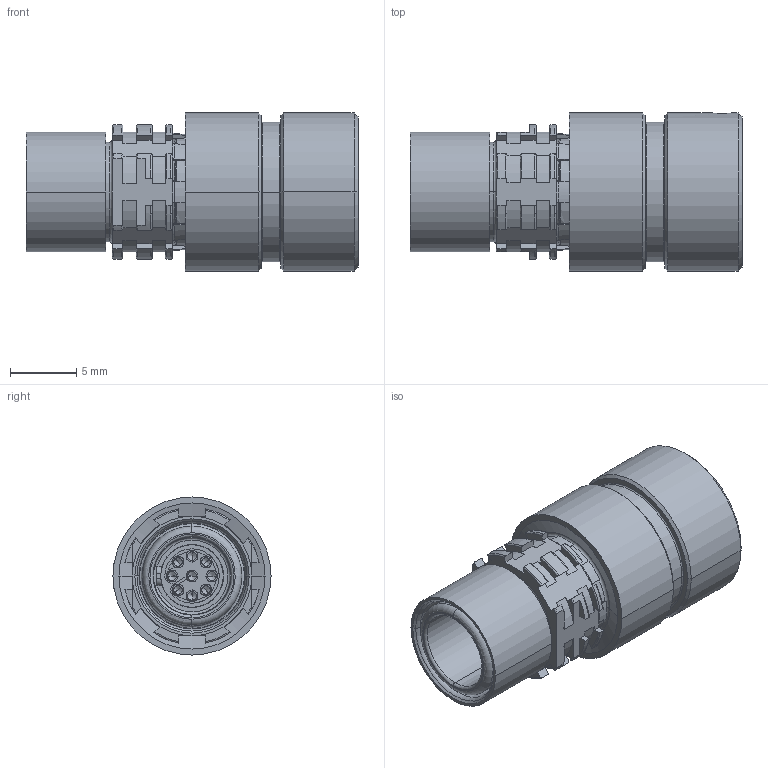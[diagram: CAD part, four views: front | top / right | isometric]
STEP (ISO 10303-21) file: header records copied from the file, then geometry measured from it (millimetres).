
FILE_DESCRIPTION((''),'2;1');
FILE_NAME('K10Y_R-P09WCD0-0000_EXTERN--_ASM','2020-10-13T11:51:34',('EUnterhaslberger'),(''),'CREO PARAMETRIC BY PTC INC, 2018300','CREO PARAMETRIC BY PTC INC, 2018300','');
FILE_SCHEMA(('AP242_MANAGED_MODEL_BASED_3D_ENGINEERING_MIM_LF { 1 0 10303 442 1 1 4 }'));
Length unit declared in the file: millimetre
Products named in the file (4): TEMP_SW_STEP_MONOBLOCK_1_1; TEMP_SW_STEP_MONOBLOCK_1_2; TEMP_SW_STEP_MONOBLOCK_1_ASM; K10Y_R-P09WCD0-0000_EXTERN--_ASM
Assembly tree (3 placements, depth 3):
  K10Y_R-P09WCD0-0000_EXTERN--_ASM
    TEMP_SW_STEP_MONOBLOCK_1_ASM
      TEMP_SW_STEP_MONOBLOCK_1_1
      TEMP_SW_STEP_MONOBLOCK_1_2
Bounding box: 25 x 11.9 x 11.9 mm (x, y, z)
Volume: 1548.6 mm3; surface area: 2637.1 mm2
Topology: 2 solids, 2 shells, 658 faces, 1942 edges, 1289 vertices
Faces by surface type: plane 228, cylinder 202, torus 117, cone 111
Entity records: 27582 total; most frequent: CARTESIAN_POINT 5615, ORIENTED_EDGE 3848, DIRECTION 3787, EDGE_CURVE 1924, AXIS2_PLACEMENT_3D 1488, VERTEX_POINT 1289, CIRCLE 821, VECTOR 811
